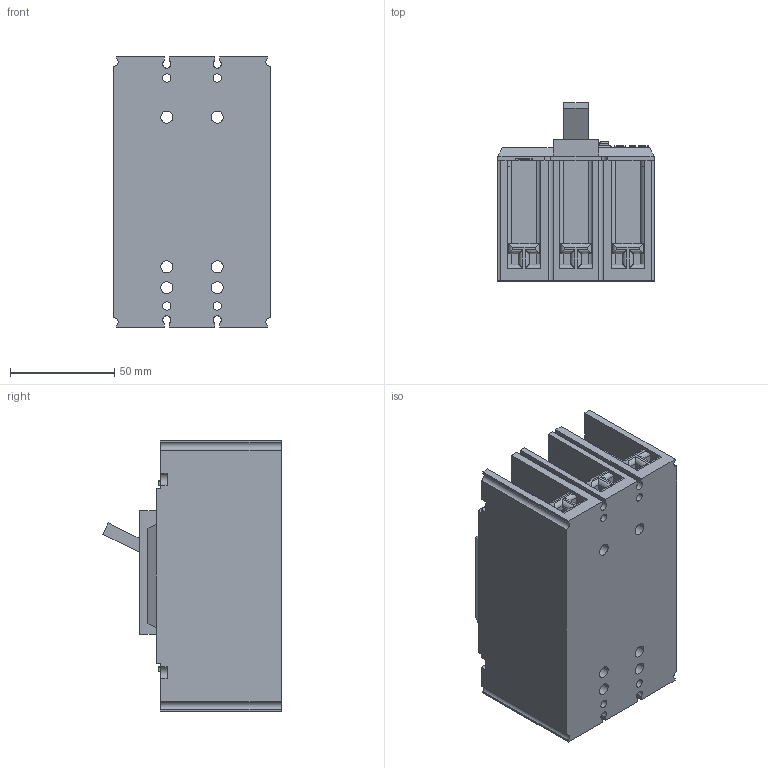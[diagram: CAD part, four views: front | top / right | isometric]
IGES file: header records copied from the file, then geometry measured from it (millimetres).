
Start section:  PTC IGES file: 16-metasol-mccb-100af-3p.igs
Global section: file name: 16-metasol-mccb-100af-3p.igs; native system: Pro/ENGINEER by Parametric Technology Corporation; preprocessor: 2010280; author: mgkimb; organization: Unknown; date: 20131029.143121; units: millimetre
Bounding box: 75 x 85.7 x 130 mm (x, y, z)
Surface area: 73474.1 mm2 (no closed solid volume)
Topology: 0 solids, 0 shells, 699 faces, 4010 edges, 4010 vertices
Faces by surface type: bspline 530, revolution 169
